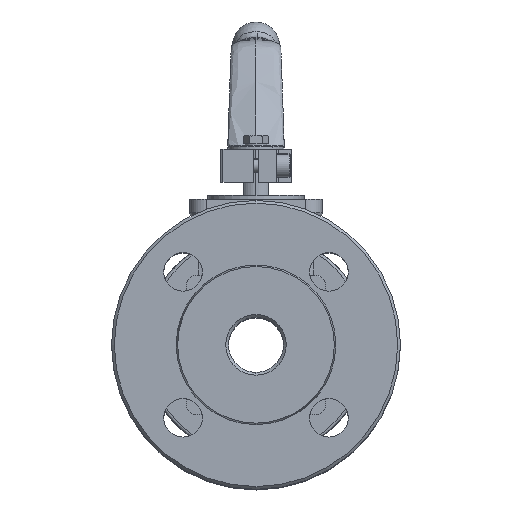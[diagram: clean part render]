
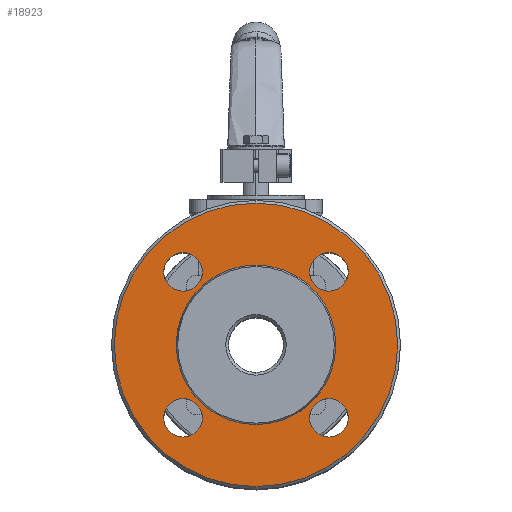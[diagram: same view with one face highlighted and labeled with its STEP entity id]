
A CAD part, top view. The second image highlights one B-rep face of the part: STEP entity #18923.
In plain terms, the highlighted planar face has unit normal (0, 0, 1) as drawn and (0, -1, 0) by its records, which use the part's own axes.
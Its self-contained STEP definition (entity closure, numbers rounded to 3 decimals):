
#458 = DIRECTION ( 'NONE',  ( 0., 1., 0. ) ) ;
#558 = AXIS2_PLACEMENT_3D ( 'NONE', #3047, #15768, #4866 ) ;
#590 = VERTEX_POINT ( 'NONE', #8277 ) ;
#1013 = PLANE ( 'NONE',  #20847 ) ;
#1207 = EDGE_CURVE ( 'NONE', #21267, #16188, #14669, .T. ) ;
#1212 = DIRECTION ( 'NONE',  ( 0., 0., 1. ) ) ;
#1451 = ORIENTED_EDGE ( 'NONE', *, *, #4216, .T. ) ;
#1505 = EDGE_CURVE ( 'NONE', #20994, #20048, #10648, .T. ) ;
#2208 = FACE_BOUND ( 'NONE', #5614, .T. ) ;
#2504 = EDGE_CURVE ( 'NONE', #4552, #13392, #3540, .T. ) ;
#2584 = CARTESIAN_POINT ( 'NONE',  ( -26.517, -40.794, -20.517 ) ) ;
#2767 = FACE_BOUND ( 'NONE', #21678, .T. ) ;
#3047 = CARTESIAN_POINT ( 'NONE',  ( 26.517, -40.794, -27.517 ) ) ;
#3154 = CARTESIAN_POINT ( 'NONE',  ( 0., -40.794, -1. ) ) ;
#3376 = CARTESIAN_POINT ( 'NONE',  ( 0., -40.794, 50.5 ) ) ;
#3512 = AXIS2_PLACEMENT_3D ( 'NONE', #3154, #15865, #4963 ) ;
#3540 = CIRCLE ( 'NONE', #3512, 29. ) ;
#4216 = EDGE_CURVE ( 'NONE', #17020, #6242, #16027, .T. ) ;
#4459 = DIRECTION ( 'NONE',  ( 0., 1., 0. ) ) ;
#4481 = AXIS2_PLACEMENT_3D ( 'NONE', #11212, #458, #13080 ) ;
#4485 = CARTESIAN_POINT ( 'NONE',  ( 26.517, -40.794, -34.517 ) ) ;
#4552 = VERTEX_POINT ( 'NONE', #17642 ) ;
#4714 = CIRCLE ( 'NONE', #4481, 7. ) ;
#4822 = ORIENTED_EDGE ( 'NONE', *, *, #2504, .T. ) ;
#4866 = DIRECTION ( 'NONE',  ( 0., 0., 1. ) ) ;
#4963 = DIRECTION ( 'NONE',  ( 0., 0., 1. ) ) ;
#5238 = EDGE_CURVE ( 'NONE', #8419, #590, #14857, .T. ) ;
#5614 = EDGE_LOOP ( 'NONE', ( #10431, #15498 ) ) ;
#5920 = CARTESIAN_POINT ( 'NONE',  ( -26.517, -40.794, -27.517 ) ) ;
#6227 = DIRECTION ( 'NONE',  ( 0., 1., 0. ) ) ;
#6242 = VERTEX_POINT ( 'NONE', #4485 ) ;
#6264 = CARTESIAN_POINT ( 'NONE',  ( 26.517, -40.794, 32.517 ) ) ;
#6296 = VERTEX_POINT ( 'NONE', #6264 ) ;
#6368 = DIRECTION ( 'NONE',  ( 0., -1., 0. ) ) ;
#6741 = EDGE_CURVE ( 'NONE', #20048, #20994, #14299, .T. ) ;
#6957 = FACE_BOUND ( 'NONE', #18191, .T. ) ;
#6963 = CARTESIAN_POINT ( 'NONE',  ( 0., -40.794, 28. ) ) ;
#7428 = CARTESIAN_POINT ( 'NONE',  ( 26.517, -40.794, -20.517 ) ) ;
#7591 = DIRECTION ( 'NONE',  ( 0., -1., 0. ) ) ;
#7765 = DIRECTION ( 'NONE',  ( 0., 0., 1. ) ) ;
#7801 = VERTEX_POINT ( 'NONE', #9986 ) ;
#8009 = DIRECTION ( 'NONE',  ( 0., 1., 0. ) ) ;
#8277 = CARTESIAN_POINT ( 'NONE',  ( -26.517, -40.794, 32.517 ) ) ;
#8419 = VERTEX_POINT ( 'NONE', #10963 ) ;
#8848 = CARTESIAN_POINT ( 'NONE',  ( 0., -40.794, -1. ) ) ;
#9285 = AXIS2_PLACEMENT_3D ( 'NONE', #18967, #8009, #20808 ) ;
#9927 = CARTESIAN_POINT ( 'NONE',  ( 26.517, -40.794, 25.517 ) ) ;
#9986 = CARTESIAN_POINT ( 'NONE',  ( 26.517, -40.794, 18.517 ) ) ;
#10345 = CARTESIAN_POINT ( 'NONE',  ( 26.517, -40.794, -27.517 ) ) ;
#10431 = ORIENTED_EDGE ( 'NONE', *, *, #22900, .T. ) ;
#10465 = ORIENTED_EDGE ( 'NONE', *, *, #23021, .T. ) ;
#10648 = CIRCLE ( 'NONE', #13394, 7. ) ;
#10654 = DIRECTION ( 'NONE',  ( 0., 0., 1. ) ) ;
#10745 = EDGE_LOOP ( 'NONE', ( #16829, #19553 ) ) ;
#10877 = AXIS2_PLACEMENT_3D ( 'NONE', #15352, #4459, #17192 ) ;
#10963 = CARTESIAN_POINT ( 'NONE',  ( -26.517, -40.794, 18.517 ) ) ;
#11127 = AXIS2_PLACEMENT_3D ( 'NONE', #5920, #18724, #7765 ) ;
#11212 = CARTESIAN_POINT ( 'NONE',  ( -26.517, -40.794, 25.517 ) ) ;
#11277 = AXIS2_PLACEMENT_3D ( 'NONE', #8848, #21675, #10654 ) ;
#11764 = DIRECTION ( 'NONE',  ( 0., 0., 1. ) ) ;
#11811 = CARTESIAN_POINT ( 'NONE',  ( 0., -40.794, -41.75 ) ) ;
#11838 = FACE_BOUND ( 'NONE', #10745, .T. ) ;
#12033 = DIRECTION ( 'NONE',  ( 0., 1., 0. ) ) ;
#12190 = DIRECTION ( 'NONE',  ( 0., 0., 1. ) ) ;
#12423 = FACE_BOUND ( 'NONE', #18481, .T. ) ;
#12686 = CARTESIAN_POINT ( 'NONE',  ( 0., -40.794, -52.5 ) ) ;
#12823 = CIRCLE ( 'NONE', #13836, 7. ) ;
#13080 = DIRECTION ( 'NONE',  ( 0., 0., 1. ) ) ;
#13392 = VERTEX_POINT ( 'NONE', #6963 ) ;
#13394 = AXIS2_PLACEMENT_3D ( 'NONE', #17181, #6227, #19041 ) ;
#13836 = AXIS2_PLACEMENT_3D ( 'NONE', #10345, #23172, #12190 ) ;
#13884 = EDGE_LOOP ( 'NONE', ( #20221, #21655 ) ) ;
#13893 = CIRCLE ( 'NONE', #11277, 51.5 ) ;
#14299 = CIRCLE ( 'NONE', #11127, 7. ) ;
#14669 = CIRCLE ( 'NONE', #18753, 51.5 ) ;
#14857 = CIRCLE ( 'NONE', #9285, 7. ) ;
#15073 = AXIS2_PLACEMENT_3D ( 'NONE', #23010, #12033, #1212 ) ;
#15352 = CARTESIAN_POINT ( 'NONE',  ( 0., -40.794, -1. ) ) ;
#15498 = ORIENTED_EDGE ( 'NONE', *, *, #20127, .T. ) ;
#15519 = CIRCLE ( 'NONE', #10877, 29. ) ;
#15766 = AXIS2_PLACEMENT_3D ( 'NONE', #9927, #22738, #11764 ) ;
#15768 = DIRECTION ( 'NONE',  ( 0., 1., 0. ) ) ;
#15780 = CARTESIAN_POINT ( 'NONE',  ( -26.517, -40.794, -34.517 ) ) ;
#15865 = DIRECTION ( 'NONE',  ( 0., 1., 0. ) ) ;
#16027 = CIRCLE ( 'NONE', #558, 7. ) ;
#16176 = ORIENTED_EDGE ( 'NONE', *, *, #5238, .T. ) ;
#16188 = VERTEX_POINT ( 'NONE', #3376 ) ;
#16215 = EDGE_CURVE ( 'NONE', #16188, #21267, #13893, .T. ) ;
#16829 = ORIENTED_EDGE ( 'NONE', *, *, #6741, .T. ) ;
#17020 = VERTEX_POINT ( 'NONE', #7428 ) ;
#17181 = CARTESIAN_POINT ( 'NONE',  ( -26.517, -40.794, -27.517 ) ) ;
#17192 = DIRECTION ( 'NONE',  ( 0., 0., 1. ) ) ;
#17642 = CARTESIAN_POINT ( 'NONE',  ( 0., -40.794, -30. ) ) ;
#18191 = EDGE_LOOP ( 'NONE', ( #1451, #10465 ) ) ;
#18265 = ORIENTED_EDGE ( 'NONE', *, *, #19177, .T. ) ;
#18424 = CIRCLE ( 'NONE', #15766, 7. ) ;
#18481 = EDGE_LOOP ( 'NONE', ( #18265, #16176 ) ) ;
#18556 = CARTESIAN_POINT ( 'NONE',  ( 0., -40.794, -1. ) ) ;
#18724 = DIRECTION ( 'NONE',  ( 0., 1., 0. ) ) ;
#18753 = AXIS2_PLACEMENT_3D ( 'NONE', #18556, #7591, #20419 ) ;
#18923 = ADVANCED_FACE ( 'NONE', ( #22178, #2767, #12423, #11838, #6957, #2208 ), #1013, .T. ) ;
#18967 = CARTESIAN_POINT ( 'NONE',  ( -26.517, -40.794, 25.517 ) ) ;
#19041 = DIRECTION ( 'NONE',  ( 0., 0., 1. ) ) ;
#19177 = EDGE_CURVE ( 'NONE', #590, #8419, #4714, .T. ) ;
#19189 = DIRECTION ( 'NONE',  ( 0., 0., -1. ) ) ;
#19553 = ORIENTED_EDGE ( 'NONE', *, *, #1505, .T. ) ;
#20048 = VERTEX_POINT ( 'NONE', #2584 ) ;
#20112 = EDGE_CURVE ( 'NONE', #13392, #4552, #15519, .T. ) ;
#20127 = EDGE_CURVE ( 'NONE', #7801, #6296, #18424, .T. ) ;
#20221 = ORIENTED_EDGE ( 'NONE', *, *, #16215, .T. ) ;
#20419 = DIRECTION ( 'NONE',  ( 0., 0., 1. ) ) ;
#20808 = DIRECTION ( 'NONE',  ( 0., 0., 1. ) ) ;
#20847 = AXIS2_PLACEMENT_3D ( 'NONE', #11811, #6368, #19189 ) ;
#20994 = VERTEX_POINT ( 'NONE', #15780 ) ;
#21267 = VERTEX_POINT ( 'NONE', #12686 ) ;
#21513 = ORIENTED_EDGE ( 'NONE', *, *, #20112, .T. ) ;
#21655 = ORIENTED_EDGE ( 'NONE', *, *, #1207, .T. ) ;
#21675 = DIRECTION ( 'NONE',  ( 0., -1., 0. ) ) ;
#21678 = EDGE_LOOP ( 'NONE', ( #21513, #4822 ) ) ;
#22178 = FACE_OUTER_BOUND ( 'NONE', #13884, .T. ) ;
#22738 = DIRECTION ( 'NONE',  ( 0., 1., 0. ) ) ;
#22900 = EDGE_CURVE ( 'NONE', #6296, #7801, #23130, .T. ) ;
#23010 = CARTESIAN_POINT ( 'NONE',  ( 26.517, -40.794, 25.517 ) ) ;
#23021 = EDGE_CURVE ( 'NONE', #6242, #17020, #12823, .T. ) ;
#23130 = CIRCLE ( 'NONE', #15073, 7. ) ;
#23172 = DIRECTION ( 'NONE',  ( 0., 1., 0. ) ) ;
